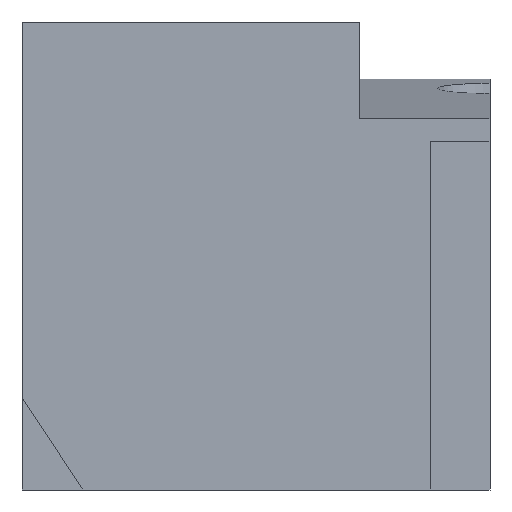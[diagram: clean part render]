
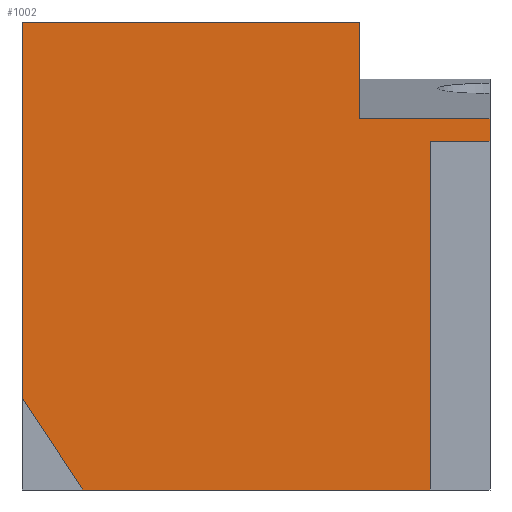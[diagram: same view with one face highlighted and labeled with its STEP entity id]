
A CAD part, left-side view. The second image highlights one B-rep face of the part: STEP entity #1002.
In plain terms, the highlighted planar face has unit normal (-1, 0, 0).
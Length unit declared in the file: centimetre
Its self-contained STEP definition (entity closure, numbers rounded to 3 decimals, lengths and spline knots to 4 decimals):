
#6 = CARTESIAN_POINT ( 'NONE',  ( 0., 1000., 1000. ) ) ;
#41 = LINE ( 'NONE', #1093, #1322 ) ;
#93 = ORIENTED_EDGE ( 'NONE', *, *, #724, .T. ) ;
#97 = DIRECTION ( 'NONE',  ( 0., 1., 0. ) ) ;
#109 = VECTOR ( 'NONE', #160, 100. ) ;
#160 = DIRECTION ( 'NONE',  ( 0., 0., -1. ) ) ;
#161 = CARTESIAN_POINT ( 'NONE',  ( 0., 1000., 1000. ) ) ;
#182 = ORIENTED_EDGE ( 'NONE', *, *, #1651, .F. ) ;
#191 = CARTESIAN_POINT ( 'NONE',  ( 0., 127.2073, 0. ) ) ;
#207 = EDGE_LOOP ( 'NONE', ( #678, #1433, #182, #685, #93, #1404, #508, #1475, #829 ) ) ;
#218 = VECTOR ( 'NONE', #482, 100. ) ;
#231 = CARTESIAN_POINT ( 'NONE',  ( 0., 0., 793.0296 ) ) ;
#238 = DIRECTION ( 'NONE',  ( 0., -1., 0. ) ) ;
#247 = CARTESIAN_POINT ( 'NONE',  ( 0., 278.6162, 793.0296 ) ) ;
#249 = VECTOR ( 'NONE', #1529, 100. ) ;
#253 = VERTEX_POINT ( 'NONE', #739 ) ;
#267 = PLANE ( 'NONE',  #853 ) ;
#270 = CARTESIAN_POINT ( 'NONE',  ( 0., 0., 1000. ) ) ;
#274 = DIRECTION ( 'NONE',  ( 0., 0., -1. ) ) ;
#328 = VERTEX_POINT ( 'NONE', #493 ) ;
#354 = VERTEX_POINT ( 'NONE', #1548 ) ;
#356 = VECTOR ( 'NONE', #1177, 100. ) ;
#367 = LINE ( 'NONE', #764, #356 ) ;
#482 = DIRECTION ( 'NONE',  ( 0., 0.55, 0.835 ) ) ;
#493 = CARTESIAN_POINT ( 'NONE',  ( 0., 278.6162, 793.0296 ) ) ;
#499 = VECTOR ( 'NONE', #1449, 100. ) ;
#508 = ORIENTED_EDGE ( 'NONE', *, *, #701, .T. ) ;
#511 = CARTESIAN_POINT ( 'NONE',  ( 0., 127.2073, 745.0114 ) ) ;
#524 = VECTOR ( 'NONE', #97, 100. ) ;
#525 = DIRECTION ( 'NONE',  ( 0., 0., -1. ) ) ;
#564 = VERTEX_POINT ( 'NONE', #574 ) ;
#574 = CARTESIAN_POINT ( 'NONE',  ( 0., 1000., 1000. ) ) ;
#642 = LINE ( 'NONE', #1455, #524 ) ;
#649 = FACE_OUTER_BOUND ( 'NONE', #207, .T. ) ;
#662 = CARTESIAN_POINT ( 'NONE',  ( 0., 127.2073, 745.0114 ) ) ;
#678 = ORIENTED_EDGE ( 'NONE', *, *, #1414, .F. ) ;
#684 = VECTOR ( 'NONE', #238, 100. ) ;
#685 = ORIENTED_EDGE ( 'NONE', *, *, #1610, .F. ) ;
#701 = EDGE_CURVE ( 'NONE', #354, #1157, #41, .T. ) ;
#724 = EDGE_CURVE ( 'NONE', #564, #957, #1381, .T. ) ;
#739 = CARTESIAN_POINT ( 'NONE',  ( 0., 0., 745.0114 ) ) ;
#764 = CARTESIAN_POINT ( 'NONE',  ( 0., 278.6162, 793.0296 ) ) ;
#829 = ORIENTED_EDGE ( 'NONE', *, *, #1566, .F. ) ;
#853 = AXIS2_PLACEMENT_3D ( 'NONE', #6, #1332, #274 ) ;
#906 = LINE ( 'NONE', #511, #1690 ) ;
#957 = VERTEX_POINT ( 'NONE', #1215 ) ;
#972 = VERTEX_POINT ( 'NONE', #662 ) ;
#1002 = ADVANCED_FACE ( 'NONE', ( #649 ), #267, .F. ) ;
#1093 = CARTESIAN_POINT ( 'NONE',  ( 0., 1000., 0. ) ) ;
#1157 = VERTEX_POINT ( 'NONE', #191 ) ;
#1177 = DIRECTION ( 'NONE',  ( 0., 0., -1. ) ) ;
#1187 = LINE ( 'NONE', #1715, #684 ) ;
#1196 = LINE ( 'NONE', #247, #499 ) ;
#1215 = CARTESIAN_POINT ( 'NONE',  ( 0., 1000., 196.9904 ) ) ;
#1230 = DIRECTION ( 'NONE',  ( 0., -1., 0. ) ) ;
#1239 = LINE ( 'NONE', #270, #109 ) ;
#1241 = EDGE_CURVE ( 'NONE', #354, #957, #1708, .T. ) ;
#1267 = EDGE_CURVE ( 'NONE', #328, #1532, #1196, .T. ) ;
#1272 = CARTESIAN_POINT ( 'NONE',  ( 0., 870.1031, 0. ) ) ;
#1305 = EDGE_CURVE ( 'NONE', #972, #1157, #906, .T. ) ;
#1310 = CARTESIAN_POINT ( 'NONE',  ( 0., 278.6162, 1000. ) ) ;
#1322 = VECTOR ( 'NONE', #1230, 100. ) ;
#1332 = DIRECTION ( 'NONE',  ( 1., 0., 0. ) ) ;
#1381 = LINE ( 'NONE', #161, #249 ) ;
#1404 = ORIENTED_EDGE ( 'NONE', *, *, #1241, .F. ) ;
#1414 = EDGE_CURVE ( 'NONE', #1532, #253, #1239, .T. ) ;
#1433 = ORIENTED_EDGE ( 'NONE', *, *, #1267, .F. ) ;
#1449 = DIRECTION ( 'NONE',  ( 0., -1., 0. ) ) ;
#1455 = CARTESIAN_POINT ( 'NONE',  ( 0., 0., 745.0114 ) ) ;
#1475 = ORIENTED_EDGE ( 'NONE', *, *, #1305, .F. ) ;
#1529 = DIRECTION ( 'NONE',  ( 0., 0., -1. ) ) ;
#1532 = VERTEX_POINT ( 'NONE', #231 ) ;
#1541 = VERTEX_POINT ( 'NONE', #1310 ) ;
#1548 = CARTESIAN_POINT ( 'NONE',  ( 0., 870.1031, 0. ) ) ;
#1566 = EDGE_CURVE ( 'NONE', #253, #972, #642, .T. ) ;
#1610 = EDGE_CURVE ( 'NONE', #564, #1541, #1187, .T. ) ;
#1651 = EDGE_CURVE ( 'NONE', #1541, #328, #367, .T. ) ;
#1690 = VECTOR ( 'NONE', #525, 100. ) ;
#1708 = LINE ( 'NONE', #1272, #218 ) ;
#1715 = CARTESIAN_POINT ( 'NONE',  ( 0., 1000., 1000. ) ) ;
